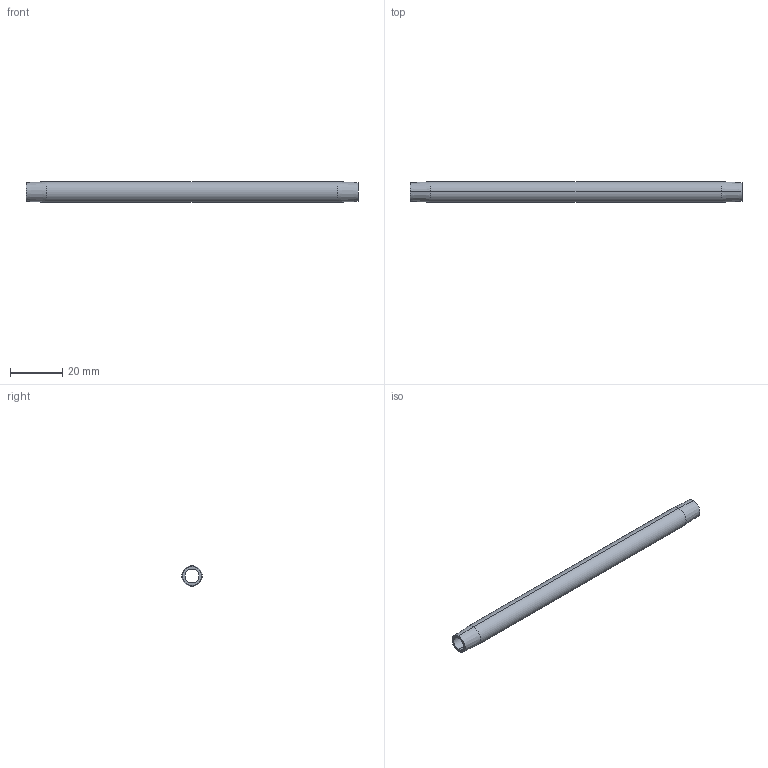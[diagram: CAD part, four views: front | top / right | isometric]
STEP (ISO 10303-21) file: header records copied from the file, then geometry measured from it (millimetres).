
FILE_DESCRIPTION (( 'STEP AP203' ), '1' );
FILE_NAME ('BPN06L5.step', '2020-08-19T07:45:34', ( 'Microsoft Corporation' ), ( 'MS' ), 'SwSTEP 2.0', 'SolidWorks 2018', '' );
FILE_SCHEMA (( 'CONFIG_CONTROL_DESIGN' ));
Length unit declared in the file: inch
Products named in the file (1): BPN06L5
Bounding box: 127 x 7.94 x 7.94 mm (x, y, z)
Volume: 3393.9 mm3; surface area: 5299.8 mm2
Topology: 1 solids, 1 shells, 10 faces, 20 edges, 12 vertices
Faces by surface type: cone 4, cylinder 4, plane 2
Entity records: 347 total; most frequent: DIRECTION 54, CARTESIAN_POINT 43, ORIENTED_EDGE 40, AXIS2_PLACEMENT_3D 23, EDGE_CURVE 20, CIRCLE 12, VERTEX_POINT 12, EDGE_LOOP 12
